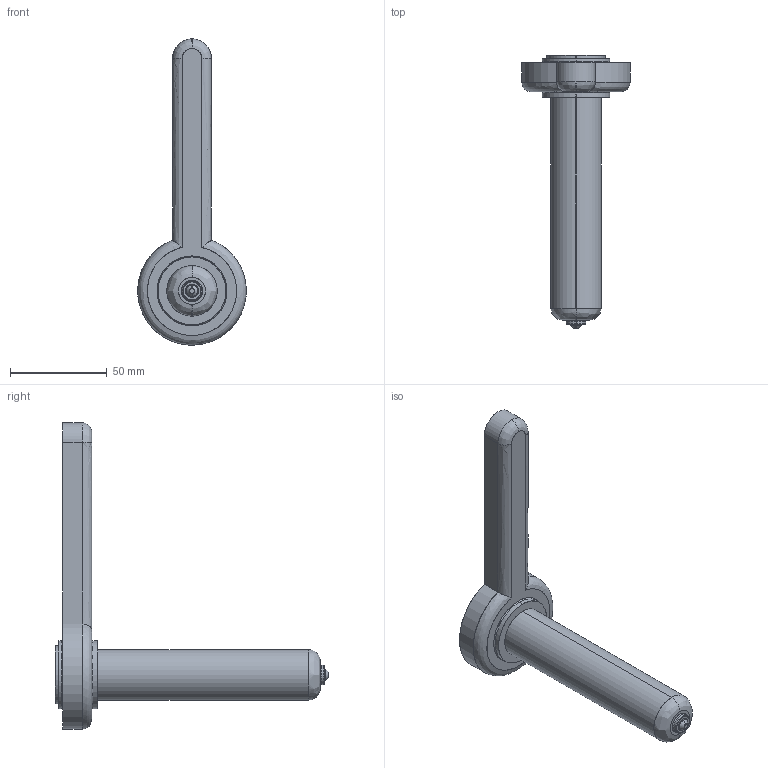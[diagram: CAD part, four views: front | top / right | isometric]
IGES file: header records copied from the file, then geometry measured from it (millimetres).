
Start section: SolidWorks IGES file using analytic representation for surfaces
Global section: file name: C:\Users\luca.EMPAD\Desktop\TEM\Sede UGEP3053-S-A C-119 L-139 Ød-2.5.IGS; native system: SolidWorks 2012; preprocessor: SolidWorks 2012; author: luca; date: 120402.152116; units: millimetre
Bounding box: 56 x 141.3 x 158 mm (x, y, z)
Surface area: 23645.3 mm2 (no closed solid volume)
Topology: 0 solids, 0 shells, 44 faces, 918 edges, 918 vertices
Faces by surface type: revolution 27, bspline 17
